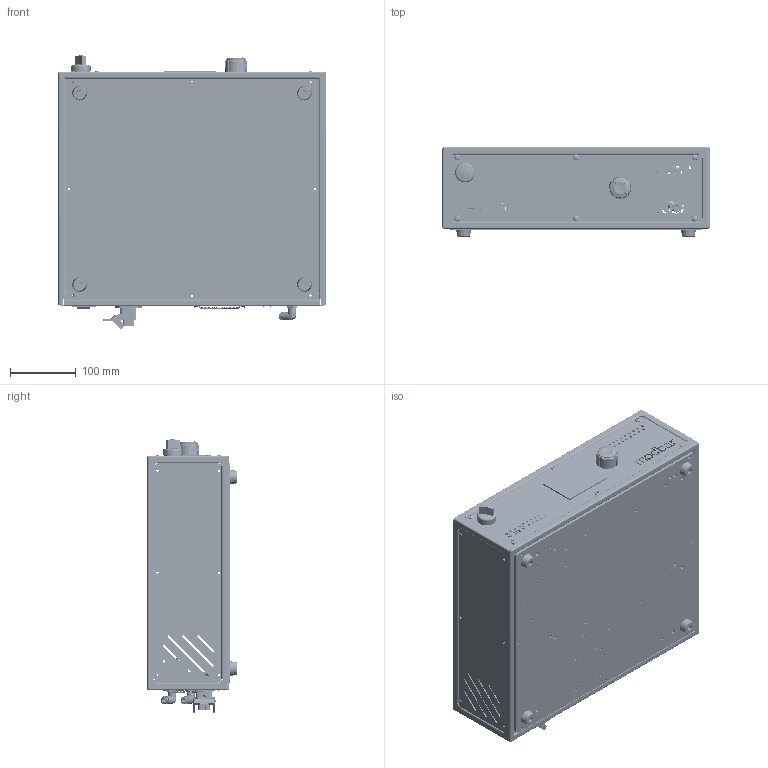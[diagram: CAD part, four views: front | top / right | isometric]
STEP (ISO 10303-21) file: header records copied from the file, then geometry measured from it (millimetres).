
FILE_DESCRIPTION (( 'STEP AP214' ), '1' );
FILE_NAME ('LM0013839_MODBAR-EP_ESPRESSO_MODULE.STEP', '2018-04-05T12:44:23', ( 'Service3D' ), ( 'Microsoft' ), 'SwSTEP 2.0', 'SolidWorks 2017', '' );
FILE_SCHEMA (( 'AUTOMOTIVE_DESIGN' ));
Length unit declared in the file: millimetre
Products named in the file (46): LM0006930_E-5018-01; LM0007261_M-5010-01; LM0006932_E-5018-01_contacts_of; LM0007260_M-5007-01; LM0007265_M-5010-01_frontal_support_of; LM0006933_E-5018-01_tab_of; LM0011637; LM0002516; LM0006931_E-5018-01_body_of; LM0007273; LM0007326_MB0010_bracket_of; LM0007275; LM0007370; LM0007263_M-5010-01_bracket_of; LM0006844; LM0006960_EA-0008-02_ASM_sg; LM0007262_M-5010-01_back_of; LM0007268_M-5013-01; LM0007286_M-6006-01; LM0007209; LM0007264_M-5010-01_frame_of; LM0006882; LM0006908_E-0056-01_sg; LM0006878; LM0006868_E-0030-01_sg; LM0013839_MODBAR-EP_ESPRESSO_MODULE; LM0007269_M-5014-01; LM0007619; LM0006711_A-0043-01_ASM_sg_POS_I; LM0006675_A-0026-01_ASM_sg_ON; LM0006929; LM0006914; LM0006921; LM0006925; LM0007188_M-0100-01_1_sg; LM0006899; LM0006926_E-5011-01; LM0006896; LM0006927_E-5011-01_ring_of; LM0006893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
Assembly tree (86 placements, depth 4):
  LM0013839_MODBAR-EP_ESPRESSO_MODULE
    LM0007261_M-5010-01
      LM0007264_M-5010-01_frame_of
      LM0007262_M-5010-01_back_of
      LM0007263_M-5010-01_bracket_of  x2
      LM0007265_M-5010-01_frontal_support_of
        LM0007326_MB0010_bracket_of
        LM0002516  x6
    LM0007268_M-5013-01  x2
    LM0006711_A-0043-01_ASM_sg_POS_I
      LM0007259_M-5006-01
      LM0006845
      LM0006926_E-5011-01
        LM0006928_E-5011-01_selector_of
        LM0006927_E-5011-01_ring_of
      LM0007188_M-0100-01_1_sg  x2
      LM0006921
      LM0006929
    LM0007269_M-5014-01
    LM0006878
    LM0006882
    LM0006675_A-0026-01_ASM_sg_ON
      LM0007286_M-6006-01
      LM0006844  x2
      LM0007275
      LM0007188_M-0100-01_1_sg  x4
      LM0006930_E-5018-01
        LM0006931_E-5018-01_body_of
        LM0006933_E-5018-01_tab_of
        LM0006932_E-5018-01_contacts_of
      LM0006917_E-0128-01_ON
        LM0006919_E-0128-01_sg_OFF
        LM0006920
      LM0006925
        LM0006893
        LM0006896
        LM0006899  x4
      LM0006914
    LM0007619  x3
    LM0006960_EA-0008-02_ASM_sg
      LM0006868_E-0030-01_sg
      LM0006908_E-0056-01_sg
      LM0007209  x4
    LM0007370  x18
    LM0007273  x4
    LM0011637
    LM0007260_M-5007-01
Bounding box: 406 x 135.74 x 414.73 mm (x, y, z)
Volume: 1139761.3 mm3; surface area: 1236549.6 mm2
Topology: 77 solids, 86 shells, 5686 faces, 14447 edges, 8960 vertices
Faces by surface type: plane 2259, cylinder 1828, bspline 1355, cone 191, torus 49, sphere 4
Entity records: 181062 total; most frequent: CARTESIAN_POINT 77757, ORIENTED_EDGE 21750, DIRECTION 18779, EDGE_CURVE 10931, VERTEX_POINT 6828, AXIS2_PLACEMENT_3D 6675, VECTOR 5429, LINE 5429
